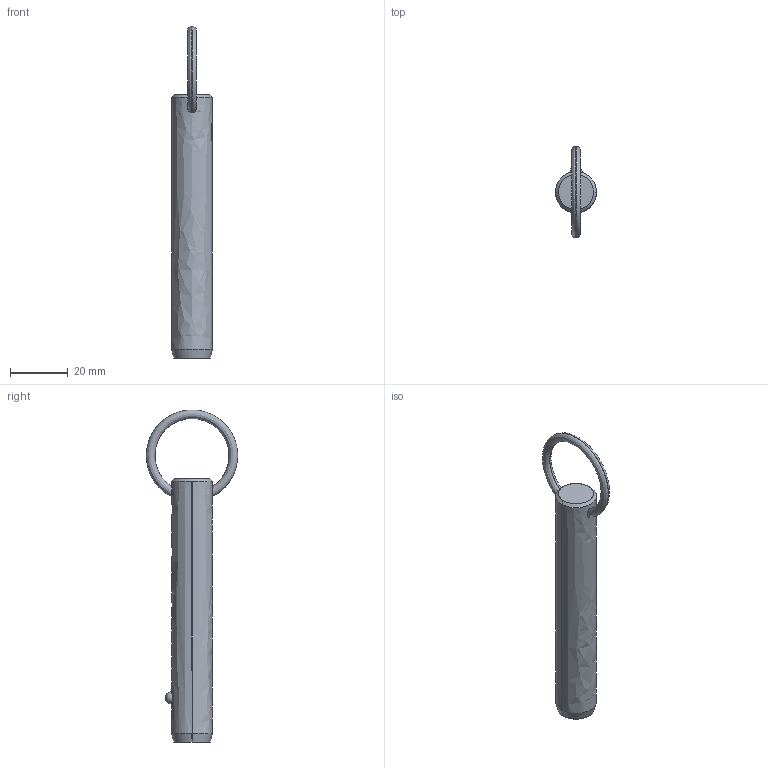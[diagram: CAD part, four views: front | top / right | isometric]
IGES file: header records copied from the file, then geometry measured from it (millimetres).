
Start section: SolidWorks IGES file using analytic representation for surfaces
Global section: file name: C:\Users\liam_\OneDrive\Documents\WORK\Work for WixRoyd\Job Files\J-00019 - Matt Davis CAD Checking\04. CAD Drawings\automotion20190605\P1250.2_v2\P1250.2_v2_20190729_IGES\P1250.056-260.igs; native system: SolidWorks 2017; preprocessor: SolidWorks 2017; author: liam_; date: 190729.231845; units: millimetre
Bounding box: 14.2 x 31.7 x 115.09 mm (x, y, z)
Surface area: 5038.8 mm2 (no closed solid volume)
Topology: 0 solids, 0 shells, 12 faces, 285 edges, 283 vertices
Faces by surface type: revolution 8, bspline 4
